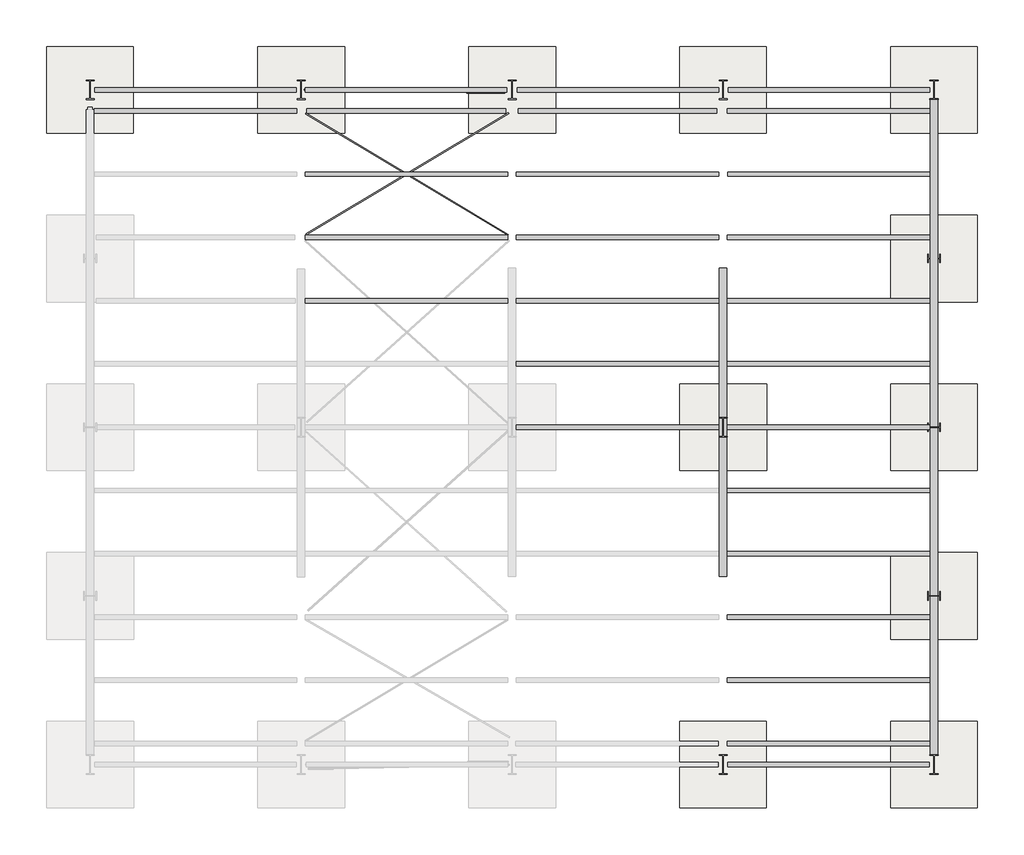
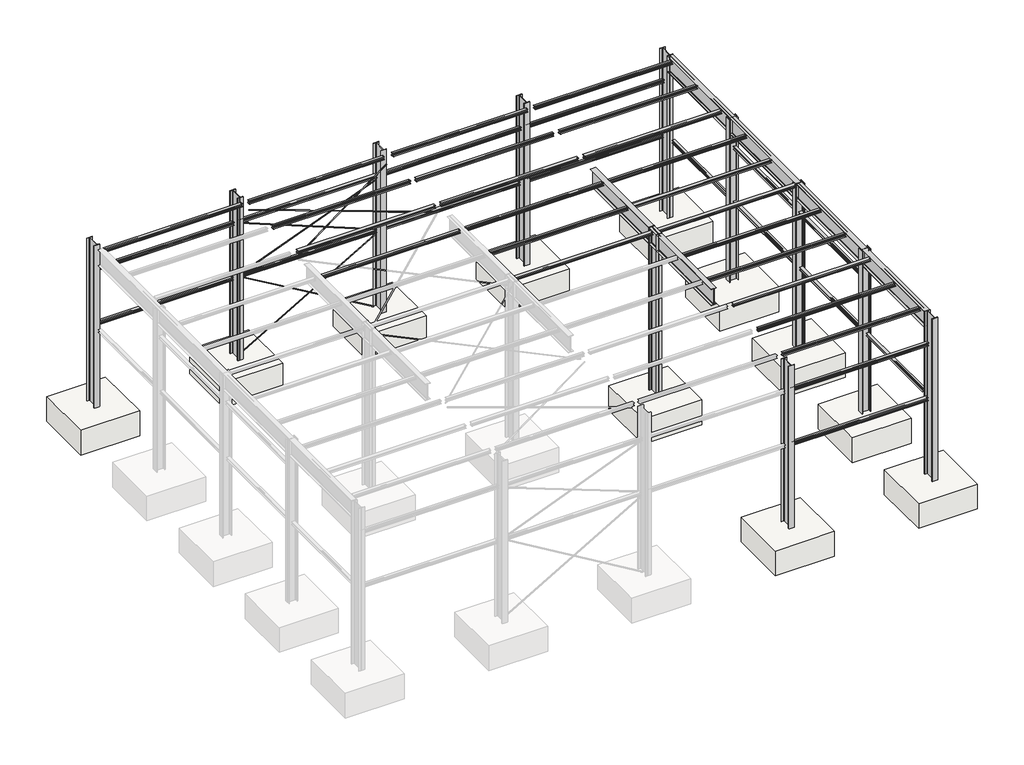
# Not in any storey, part 2 of 2: 46 beams, 11 columns, 11 slabs.
"""IFC4 building model written with IfcOpenShell, lengths in millimetres."""

from ifc_helpers import new_model, si_unit, origin, place, context, project, spatial, transform, mapped, element, save
from components import round_bars_rb_1_474f25ab, round_bars_rb_1_c614382c, round_bars_rb_1_e19388fe, round_bars_rb_1_949807f2, round_bars_rb_1_8f1d1a11, round_bars_rb_1_6b27a221, w_shapes_w24x55_664a4076, w_shapes_w24x55_62e77ac5, w_shapes_w4x13_fa7221a6, w_shapes_w4x13_89d5f31c, w_shapes_w4x13_afdda7a2, w_shapes_w4x13_af738b31, w_shapes_w4x13_2dc6f00b, w_shapes_w4x13_65f9b636, w_shapes_w4x13_9ad04f5a, w_shapes_w4x13_eaaf8195, w_shapes_w4x13_6f2b7de4, w_shapes_w4x13_63091bc0, w_shapes_w4x13_0eda1e25, w_shapes_w4x13_2bcaec1d, w_shapes_w4x13_54614953, w_shapes_w4x13_d9203223, w_shapes_column_w12x40_08ec2019, w_shapes_column_w18x65_76ea03f4, slab_95bb2fbc

model = new_model("IFC4")

# Units and contexts
model_context = context("Model", 3, world=origin())
ifc_project = project(units=[si_unit("LENGTHUNIT", "METRE", prefix="MILLI")], contexts=[model_context])

# Site, building
site = spatial("IfcSite", under=ifc_project)
building = spatial("IfcBuilding", under=site)

# Beams
placement = place(None, origin())
round_bars_rb_1_shape = round_bars_rb_1_474f25ab(model_context)
element("IfcBeam", 1, ObjectType="Round Bars : RB 1", at=placement, inside=building, context=model_context, shape_type="MappedRepresentation", body=[
    mapped(round_bars_rb_1_shape, transform((10934.1915998, 15661.6667026, 5700.0), x_axis=(0.8572793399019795, -0.5148515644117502, 0.0), y_axis=(0.5148515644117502, 0.8572793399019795, 0.0), z_axis=(0.0, 0.0, 1.0))),
])
round_bars_rb_1_2_shape = round_bars_rb_1_c614382c(model_context)
element("IfcBeam", 2, ObjectType="Round Bars : RB 1", at=placement, inside=building, context=model_context, shape_type="MappedRepresentation", body=[
    mapped(round_bars_rb_1_2_shape, transform((10950.4659621, 15674.8854418, 5700.0), x_axis=(-0.8574929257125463, -0.5144957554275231, 0.0), y_axis=(0.5144957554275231, -0.8574929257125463, 0.0), z_axis=(0.0, 0.0, 1.0))),
])
round_bars_rb_1_3_shape = round_bars_rb_1_e19388fe(model_context)
element("IfcBeam", 3, ObjectType="Round Bars : RB 1", at=placement, inside=building, context=model_context, shape_type="MappedRepresentation", body=[
    mapped(round_bars_rb_1_3_shape, transform((10907.3586964, 17662.6892441, 3941.7383396), x_axis=(-0.9288234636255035, 0.0, 0.37052256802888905), y_axis=(0.0, -1.0, 0.0), z_axis=(0.3705225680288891, 0.0, 0.9288234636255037))),
])
round_bars_rb_1_4_shape = round_bars_rb_1_949807f2(model_context)
element("IfcBeam", 4, ObjectType="Round Bars : RB 1", at=placement, inside=building, context=model_context, shape_type="MappedRepresentation", body=[
    mapped(round_bars_rb_1_4_shape, transform((10979.5770982, 17662.6892441, 1472.3595423), x_axis=(0.8639508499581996, 0.0, 0.5035761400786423), y_axis=(0.0, 0.9999999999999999, 0.0), z_axis=(-0.5035761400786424, 0.0, 0.8639508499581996))),
])
round_bars_rb_1_5_shape = round_bars_rb_1_8f1d1a11(model_context)
element("IfcBeam", 5, ObjectType="Round Bars : RB 1", at=placement, inside=building, context=model_context, shape_type="MappedRepresentation", body=[
    mapped(round_bars_rb_1_5_shape, transform((10950.0327177, 17666.6381757, 1490.2290313), x_axis=(-0.8625784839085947, 0.0, 0.5059232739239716), y_axis=(0.0, -1.0, 0.0), z_axis=(0.5059232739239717, 0.0, 0.8625784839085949))),
])
round_bars_rb_1_6_shape = round_bars_rb_1_6b27a221(model_context)
element("IfcBeam", 6, ObjectType="Round Bars : RB 1", at=placement, inside=building, context=model_context, shape_type="MappedRepresentation", body=[
    mapped(round_bars_rb_1_6_shape, transform((10963.5951339, 17628.6583681, 3945.7573265), x_axis=(0.928837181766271, -0.013322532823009, 0.37024856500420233), y_axis=(0.014341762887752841, 0.9998971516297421, 0.0), z_axis=(-0.3702104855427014, 0.005310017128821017, 0.9289327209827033))),
])
w_shapes_w24x55_shape = w_shapes_w24x55_664a4076(model_context)
element("IfcBeam", 7, ObjectType="W Shapes : W24X55", at=placement, inside=building, context=model_context, shape_type="MappedRepresentation", body=[
    mapped(w_shapes_w24x55_shape, transform((18430.1389659, 9775.9892441, 5700.28), x_axis=(0.0, -1.0, 0.0), y_axis=(1.0, 0.0, 0.0), z_axis=(0.0, 0.0, 1.0))),
])
w_shapes_w24x55_2_shape = w_shapes_w24x55_62e77ac5(model_context)
element("IfcBeam", 8, ObjectType="W Shapes : W24X55", at=placement, inside=building, context=model_context, shape_type="MappedRepresentation", body=[
    mapped(w_shapes_w24x55_2_shape, transform((23430.1389659, 9662.6892441, 5700.28), x_axis=(0.0, -1.0, 0.0), y_axis=(1.0, 0.0, 0.0), z_axis=(0.0, 0.0, 1.0))),
])
w_shapes_w4x13_shape = w_shapes_w4x13_fa7221a6(model_context)
element("IfcBeam", 9, ObjectType="W Shapes : W4X13", at=placement, inside=building, context=model_context, shape_type="MappedRepresentation", body=[
    mapped(w_shapes_w4x13_shape, transform((20930.7372773, 1662.6892441, 4956.568), x_axis=(1.0, 0.0, 0.0), y_axis=(0.0, 1.0, 0.0), z_axis=(0.0, 0.0, 1.0))),
])
element("IfcBeam", 10, ObjectType="W Shapes : W4X13", at=placement, inside=building, context=model_context, shape_type="MappedRepresentation", body=[
    mapped(w_shapes_w4x13_shape, transform((20939.1584596, 17662.6892441, 4956.568), x_axis=(-1.0, 0.0, 0.0), y_axis=(0.0, -1.0, 0.0), z_axis=(0.0, 0.0, 1.0))),
])
element("IfcBeam", 11, ObjectType="W Shapes : W4X13", at=placement, inside=building, context=model_context, shape_type="MappedRepresentation", body=[
    mapped(w_shapes_w4x13_shape, transform((15942.4643024, 17662.6892441, 4956.568), x_axis=(-1.0, 0.0, 0.0), y_axis=(0.0, -1.0, 0.0), z_axis=(0.0, 0.0, 1.0))),
])
element("IfcBeam", 12, ObjectType="W Shapes : W4X13", at=placement, inside=building, context=model_context, shape_type="MappedRepresentation", body=[
    mapped(w_shapes_w4x13_shape, transform((10917.0085823, 17662.6892441, 4956.568), x_axis=(-1.0, 0.0, 0.0), y_axis=(0.0, -1.0, 0.0), z_axis=(0.0, 0.0, 1.0))),
])
element("IfcBeam", 13, ObjectType="W Shapes : W4X13", at=placement, inside=building, context=model_context, shape_type="MappedRepresentation", body=[
    mapped(w_shapes_w4x13_shape, transform((5928.7228315, 17662.6892441, 4956.568), x_axis=(-1.0, 0.0, 0.0), y_axis=(0.0, -1.0, 0.0), z_axis=(0.0, 0.0, 1.0))),
])
w_shapes_w4x13_2_shape = w_shapes_w4x13_89d5f31c(model_context)
element("IfcBeam", 14, ObjectType="W Shapes : W4X13", at=placement, inside=building, context=model_context, shape_type="MappedRepresentation", body=[
    mapped(w_shapes_w4x13_2_shape, transform((23430.1389659, 7676.7433244, 4956.568), x_axis=(0.0, 1.0, 0.0), y_axis=(-1.0, 0.0, 0.0), z_axis=(0.0, 0.0, 1.0))),
])
element("IfcBeam", 15, ObjectType="W Shapes : W4X13", at=placement, inside=building, context=model_context, shape_type="MappedRepresentation", body=[
    mapped(w_shapes_w4x13_2_shape, transform((23430.1389659, 11648.5807671, 4956.568), x_axis=(0.0, 1.0, 0.0), y_axis=(-1.0, 0.0, 0.0), z_axis=(0.0, 0.0, 1.0))),
])
w_shapes_w4x13_3_shape = w_shapes_w4x13_afdda7a2(model_context)
element("IfcBeam", 16, ObjectType="W Shapes : W4X13", at=placement, inside=building, context=model_context, shape_type="MappedRepresentation", body=[
    mapped(w_shapes_w4x13_3_shape, transform((20928.2389659, 2162.6892441, 5947.168), x_axis=(1.0, 0.0, 0.0), y_axis=(0.0, 1.0, 0.0), z_axis=(0.0, 0.0, 1.0))),
])
element("IfcBeam", 17, ObjectType="W Shapes : W4X13", at=placement, inside=building, context=model_context, shape_type="MappedRepresentation", body=[
    mapped(w_shapes_w4x13_3_shape, transform((20925.6889659, 3662.6892441, 5947.168), x_axis=(1.0, 0.0, 0.0), y_axis=(0.0, 1.0, 0.0), z_axis=(0.0, 0.0, 1.0))),
])
element("IfcBeam", 18, ObjectType="W Shapes : W4X13", at=placement, inside=building, context=model_context, shape_type="MappedRepresentation", body=[
    mapped(w_shapes_w4x13_3_shape, transform((20928.1119659, 5162.6892441, 5947.168), x_axis=(1.0, 0.0, 0.0), y_axis=(0.0, 1.0, 0.0), z_axis=(0.0, 0.0, 1.0))),
])
element("IfcBeam", 19, ObjectType="W Shapes : W4X13", at=placement, inside=building, context=model_context, shape_type="MappedRepresentation", body=[
    mapped(w_shapes_w4x13_3_shape, transform((20928.1119659, 6662.6892441, 5947.168), x_axis=(1.0, 0.0, 0.0), y_axis=(0.0, 1.0, 0.0), z_axis=(0.0, 0.0, 1.0))),
])
element("IfcBeam", 20, ObjectType="W Shapes : W4X13", at=placement, inside=building, context=model_context, shape_type="MappedRepresentation", body=[
    mapped(w_shapes_w4x13_3_shape, transform((20928.1119659, 8162.6892441, 5947.168), x_axis=(1.0, 0.0, 0.0), y_axis=(0.0, 1.0, 0.0), z_axis=(0.0, 0.0, 1.0))),
])
element("IfcBeam", 21, ObjectType="W Shapes : W4X13", at=placement, inside=building, context=model_context, shape_type="MappedRepresentation", body=[
    mapped(w_shapes_w4x13_3_shape, transform((15925.6889659, 9662.6892441, 5947.168), x_axis=(1.0, 0.0, 0.0), y_axis=(0.0, 1.0, 0.0), z_axis=(0.0, 0.0, 1.0))),
])
element("IfcBeam", 22, ObjectType="W Shapes : W4X13", at=placement, inside=building, context=model_context, shape_type="MappedRepresentation", body=[
    mapped(w_shapes_w4x13_3_shape, transform((20931.2869659, 9662.6892441, 5947.168), x_axis=(1.0, 0.0, 0.0), y_axis=(0.0, 1.0, 0.0), z_axis=(0.0, 0.0, 1.0))),
])
w_shapes_w4x13_4_shape = w_shapes_w4x13_af738b31(model_context)
element("IfcBeam", 23, ObjectType="W Shapes : W4X13", at=placement, inside=building, context=model_context, shape_type="MappedRepresentation", body=[
    mapped(w_shapes_w4x13_4_shape, transform((5925.6889659, 17162.6892441, 5947.168), x_axis=(1.0, 0.0, 0.0), y_axis=(0.0, 1.0, 0.0), z_axis=(0.0, 0.0, 1.0))),
])
element("IfcBeam", 24, ObjectType="W Shapes : W4X13", at=placement, inside=building, context=model_context, shape_type="MappedRepresentation", body=[
    mapped(w_shapes_w4x13_4_shape, transform((20932.0389659, 17162.6892441, 5947.168), x_axis=(1.0, 0.0, 0.0), y_axis=(0.0, 1.0, 0.0), z_axis=(0.0, 0.0, 1.0))),
])
element("IfcBeam", 25, ObjectType="W Shapes : W4X13", at=placement, inside=building, context=model_context, shape_type="MappedRepresentation", body=[
    mapped(w_shapes_w4x13_4_shape, transform((10928.2389659, 15662.6892441, 5947.168), x_axis=(1.0, 0.0, 0.0), y_axis=(0.0, 1.0, 0.0), z_axis=(0.0, 0.0, 1.0))),
])
element("IfcBeam", 26, ObjectType="W Shapes : W4X13", at=placement, inside=building, context=model_context, shape_type="MappedRepresentation", body=[
    mapped(w_shapes_w4x13_4_shape, transform((15925.6889659, 15662.6892441, 5947.168), x_axis=(1.0, 0.0, 0.0), y_axis=(0.0, 1.0, 0.0), z_axis=(0.0, 0.0, 1.0))),
])
element("IfcBeam", 27, ObjectType="W Shapes : W4X13", at=placement, inside=building, context=model_context, shape_type="MappedRepresentation", body=[
    mapped(w_shapes_w4x13_4_shape, transform((20938.3889659, 15662.6892441, 5947.168), x_axis=(1.0, 0.0, 0.0), y_axis=(0.0, 1.0, 0.0), z_axis=(0.0, 0.0, 1.0))),
])
element("IfcBeam", 28, ObjectType="W Shapes : W4X13", at=placement, inside=building, context=model_context, shape_type="MappedRepresentation", body=[
    mapped(w_shapes_w4x13_4_shape, transform((10928.2389659, 14162.6892441, 5947.168), x_axis=(1.0, 0.0, 0.0), y_axis=(0.0, 1.0, 0.0), z_axis=(0.0, 0.0, 1.0))),
])
element("IfcBeam", 29, ObjectType="W Shapes : W4X13", at=placement, inside=building, context=model_context, shape_type="MappedRepresentation", body=[
    mapped(w_shapes_w4x13_4_shape, transform((15925.6889659, 14162.6892441, 5947.168), x_axis=(1.0, 0.0, 0.0), y_axis=(0.0, 1.0, 0.0), z_axis=(0.0, 0.0, 1.0))),
])
element("IfcBeam", 30, ObjectType="W Shapes : W4X13", at=placement, inside=building, context=model_context, shape_type="MappedRepresentation", body=[
    mapped(w_shapes_w4x13_4_shape, transform((20925.6889659, 14162.6892441, 5947.168), x_axis=(1.0, 0.0, 0.0), y_axis=(0.0, 1.0, 0.0), z_axis=(0.0, 0.0, 1.0))),
])
element("IfcBeam", 31, ObjectType="W Shapes : W4X13", at=placement, inside=building, context=model_context, shape_type="MappedRepresentation", body=[
    mapped(w_shapes_w4x13_4_shape, transform((10928.2389659, 12662.6892441, 5947.168), x_axis=(1.0, 0.0, 0.0), y_axis=(0.0, 1.0, 0.0), z_axis=(0.0, 0.0, 1.0))),
])
element("IfcBeam", 32, ObjectType="W Shapes : W4X13", at=placement, inside=building, context=model_context, shape_type="MappedRepresentation", body=[
    mapped(w_shapes_w4x13_4_shape, transform((15925.6889659, 12662.6892441, 5947.168), x_axis=(1.0, 0.0, 0.0), y_axis=(0.0, 1.0, 0.0), z_axis=(0.0, 0.0, 1.0))),
])
element("IfcBeam", 33, ObjectType="W Shapes : W4X13", at=placement, inside=building, context=model_context, shape_type="MappedRepresentation", body=[
    mapped(w_shapes_w4x13_4_shape, transform((20925.6889659, 12662.6892441, 5947.168), x_axis=(1.0, 0.0, 0.0), y_axis=(0.0, 1.0, 0.0), z_axis=(0.0, 0.0, 1.0))),
])
element("IfcBeam", 34, ObjectType="W Shapes : W4X13", at=placement, inside=building, context=model_context, shape_type="MappedRepresentation", body=[
    mapped(w_shapes_w4x13_4_shape, transform((15925.6889659, 11162.6892441, 5947.168), x_axis=(1.0, 0.0, 0.0), y_axis=(0.0, 1.0, 0.0), z_axis=(0.0, 0.0, 1.0))),
])
element("IfcBeam", 35, ObjectType="W Shapes : W4X13", at=placement, inside=building, context=model_context, shape_type="MappedRepresentation", body=[
    mapped(w_shapes_w4x13_4_shape, transform((20925.6889659, 11162.6892441, 5947.168), x_axis=(1.0, 0.0, 0.0), y_axis=(0.0, 1.0, 0.0), z_axis=(0.0, 0.0, 1.0))),
])
w_shapes_w4x13_5_shape = w_shapes_w4x13_2dc6f00b(model_context)
element("IfcBeam", 36, ObjectType="W Shapes : W4X13", at=placement, inside=building, context=model_context, shape_type="MappedRepresentation", body=[
    mapped(w_shapes_w4x13_5_shape, transform((10919.3389659, 17162.6892441, 5947.168), x_axis=(1.0, 0.0, 0.0), y_axis=(0.0, 1.0, 0.0), z_axis=(0.0, 0.0, 1.0))),
])
w_shapes_w4x13_6_shape = w_shapes_w4x13_65f9b636(model_context)
element("IfcBeam", 37, ObjectType="W Shapes : W4X13", at=placement, inside=building, context=model_context, shape_type="MappedRepresentation", body=[
    mapped(w_shapes_w4x13_6_shape, transform((15928.2389659, 17162.6892441, 5947.168), x_axis=(1.0, 0.0, 0.0), y_axis=(0.0, 1.0, 0.0), z_axis=(0.0, 0.0, 1.0))),
])
w_shapes_w4x13_7_shape = w_shapes_w4x13_9ad04f5a(model_context)
element("IfcBeam", 38, ObjectType="W Shapes : W4X13", at=placement, inside=building, context=model_context, shape_type="MappedRepresentation", body=[
    mapped(w_shapes_w4x13_7_shape, transform((23430.1389659, 7656.5892441, 2947.168), x_axis=(0.0, 1.0, 0.0), y_axis=(-1.0, 0.0, 0.0), z_axis=(0.0, 0.0, 1.0))),
])
w_shapes_w4x13_8_shape = w_shapes_w4x13_eaaf8195(model_context)
element("IfcBeam", 39, ObjectType="W Shapes : W4X13", at=placement, inside=building, context=model_context, shape_type="MappedRepresentation", body=[
    mapped(w_shapes_w4x13_8_shape, transform((20944.7389659, 1662.6892441, 2947.168), x_axis=(1.0, 0.0, 0.0), y_axis=(0.0, 1.0, 0.0), z_axis=(0.0, 0.0, 1.0))),
])
element("IfcBeam", 40, ObjectType="W Shapes : W4X13", at=placement, inside=building, context=model_context, shape_type="MappedRepresentation", body=[
    mapped(w_shapes_w4x13_8_shape, transform((20940.9389659, 17662.6892441, 2947.168), x_axis=(-1.0, 0.0, 0.0), y_axis=(0.0, -1.0, 0.0), z_axis=(0.0, 0.0, 1.0))),
])
w_shapes_w4x13_9_shape = w_shapes_w4x13_6f2b7de4(model_context)
element("IfcBeam", 41, ObjectType="W Shapes : W4X13", at=placement, inside=building, context=model_context, shape_type="MappedRepresentation", body=[
    mapped(w_shapes_w4x13_9_shape, transform((5937.7639659, 17662.6892441, 2947.168), x_axis=(-1.0, 0.0, 0.0), y_axis=(0.0, -1.0, 0.0), z_axis=(0.0, 0.0, 1.0))),
])
w_shapes_w4x13_10_shape = w_shapes_w4x13_63091bc0(model_context)
element("IfcBeam", 42, ObjectType="W Shapes : W4X13", at=placement, inside=building, context=model_context, shape_type="MappedRepresentation", body=[
    mapped(w_shapes_w4x13_10_shape, transform((10937.7639659, 17662.6892441, 2947.168), x_axis=(-1.0, 0.0, 0.0), y_axis=(0.0, -1.0, 0.0), z_axis=(0.0, 0.0, 1.0))),
])
w_shapes_w4x13_11_shape = w_shapes_w4x13_0eda1e25(model_context)
element("IfcBeam", 43, ObjectType="W Shapes : W4X13", at=placement, inside=building, context=model_context, shape_type="MappedRepresentation", body=[
    mapped(w_shapes_w4x13_11_shape, transform((15934.5889659, 17662.6892441, 2947.168), x_axis=(-1.0, 0.0, 0.0), y_axis=(0.0, -1.0, 0.0), z_axis=(0.0, 0.0, 1.0))),
])
w_shapes_w4x13_12_shape = w_shapes_w4x13_2bcaec1d(model_context)
element("IfcBeam", 44, ObjectType="W Shapes : W4X13", at=placement, inside=building, context=model_context, shape_type="MappedRepresentation", body=[
    mapped(w_shapes_w4x13_12_shape, transform((23430.1389659, 15593.0892441, 2947.168), x_axis=(0.0, 1.0, 0.0), y_axis=(-1.0, 0.0, 0.0), z_axis=(0.0, 0.0, 1.0))),
])
w_shapes_w4x13_13_shape = w_shapes_w4x13_54614953(model_context)
element("IfcBeam", 45, ObjectType="W Shapes : W4X13", at=placement, inside=building, context=model_context, shape_type="MappedRepresentation", body=[
    mapped(w_shapes_w4x13_13_shape, transform((23430.1389659, 11656.5892441, 2947.168), x_axis=(0.0, 1.0, 0.0), y_axis=(-1.0, 0.0, 0.0), z_axis=(0.0, 0.0, 1.0))),
])
w_shapes_w4x13_14_shape = w_shapes_w4x13_d9203223(model_context)
element("IfcBeam", 46, ObjectType="W Shapes : W4X13", at=placement, inside=building, context=model_context, shape_type="MappedRepresentation", body=[
    mapped(w_shapes_w4x13_14_shape, transform((23430.1389659, 3732.2892441, 2947.168), x_axis=(0.0, 1.0, 0.0), y_axis=(-1.0, 0.0, 0.0), z_axis=(0.0, 0.0, 1.0))),
])

# Columns
w_shapes_column_w12x40_shape = w_shapes_column_w12x40_08ec2019(model_context)
element("IfcColumn", 47, ObjectType="W Shapes-Column : W12X40", at=placement, inside=building, context=model_context, shape_type="MappedRepresentation", body=[
    mapped(w_shapes_column_w12x40_shape, transform((23430.1389659, 5662.6892441, 0.0), x_axis=(0.0, -1.0, 0.0), y_axis=(1.0, 0.0, 0.0), z_axis=(0.0, 0.0, 1.0))),
])
element("IfcColumn", 48, ObjectType="W Shapes-Column : W12X40", at=placement, inside=building, context=model_context, shape_type="MappedRepresentation", body=[
    mapped(w_shapes_column_w12x40_shape, transform((23430.1389659, 9662.6892441, 0.0), x_axis=(0.0, -1.0, 0.0), y_axis=(1.0, 0.0, 0.0), z_axis=(0.0, 0.0, 1.0))),
])
element("IfcColumn", 49, ObjectType="W Shapes-Column : W12X40", at=placement, inside=building, context=model_context, shape_type="MappedRepresentation", body=[
    mapped(w_shapes_column_w12x40_shape, transform((23430.1389659, 13662.6892441, 0.0), x_axis=(0.0, -1.0, 0.0), y_axis=(1.0, 0.0, 0.0), z_axis=(0.0, 0.0, 1.0))),
])
w_shapes_column_w18x65_shape = w_shapes_column_w18x65_76ea03f4(model_context)
element("IfcColumn", 50, ObjectType="W Shapes-Column : W18X65", at=placement, inside=building, context=model_context, shape_type="MappedRepresentation", body=[
    mapped(w_shapes_column_w18x65_shape, transform((18430.1389659, 1662.6892441, 0.0), x_axis=(1.0, 0.0, 0.0), y_axis=(0.0, 1.0, 0.0), z_axis=(0.0, 0.0, 1.0))),
])
element("IfcColumn", 51, ObjectType="W Shapes-Column : W18X65", at=placement, inside=building, context=model_context, shape_type="MappedRepresentation", body=[
    mapped(w_shapes_column_w18x65_shape, transform((23430.1389659, 1662.6892441, 0.0), x_axis=(1.0, 0.0, 0.0), y_axis=(0.0, 1.0, 0.0), z_axis=(0.0, 0.0, 1.0))),
])
element("IfcColumn", 52, ObjectType="W Shapes-Column : W18X65", at=placement, inside=building, context=model_context, shape_type="MappedRepresentation", body=[
    mapped(w_shapes_column_w18x65_shape, transform((3430.1389659, 17662.6892441, 0.0), x_axis=(1.0, 0.0, 0.0), y_axis=(0.0, 1.0, 0.0), z_axis=(0.0, 0.0, 1.0))),
])
element("IfcColumn", 53, ObjectType="W Shapes-Column : W18X65", at=placement, inside=building, context=model_context, shape_type="MappedRepresentation", body=[
    mapped(w_shapes_column_w18x65_shape, transform((8430.1389659, 17662.6892441, 0.0), x_axis=(1.0, 0.0, 0.0), y_axis=(0.0, 1.0, 0.0), z_axis=(0.0, 0.0, 1.0))),
])
element("IfcColumn", 54, ObjectType="W Shapes-Column : W18X65", at=placement, inside=building, context=model_context, shape_type="MappedRepresentation", body=[
    mapped(w_shapes_column_w18x65_shape, transform((13430.1389659, 17662.6892441, 0.0), x_axis=(1.0, 0.0, 0.0), y_axis=(0.0, 1.0, 0.0), z_axis=(0.0, 0.0, 1.0))),
])
element("IfcColumn", 55, ObjectType="W Shapes-Column : W18X65", at=placement, inside=building, context=model_context, shape_type="MappedRepresentation", body=[
    mapped(w_shapes_column_w18x65_shape, transform((18430.1389659, 17662.6892441, 0.0), x_axis=(1.0, 0.0, 0.0), y_axis=(0.0, 1.0, 0.0), z_axis=(0.0, 0.0, 1.0))),
])
element("IfcColumn", 56, ObjectType="W Shapes-Column : W18X65", at=placement, inside=building, context=model_context, shape_type="MappedRepresentation", body=[
    mapped(w_shapes_column_w18x65_shape, transform((23430.1389659, 17662.6892441, 0.0), x_axis=(1.0, 0.0, 0.0), y_axis=(0.0, 1.0, 0.0), z_axis=(0.0, 0.0, 1.0))),
])
element("IfcColumn", 57, ObjectType="W Shapes-Column : W18X65", at=placement, inside=building, context=model_context, shape_type="MappedRepresentation", body=[
    mapped(w_shapes_column_w18x65_shape, transform((18430.1389659, 9662.6892441, 0.0), x_axis=(1.0, 0.0, 0.0), y_axis=(0.0, 1.0, 0.0), z_axis=(0.0, 0.0, 1.0))),
])

# Slabs
slab_shape = slab_95bb2fbc(model_context)
element("IfcSlab", 58, ObjectType="Pile Cap-Rectangular : 81\" x 81\" x 36\"", at=placement, inside=building, context=model_context, shape_type="MappedRepresentation", body=[
    mapped(slab_shape, transform((3425.4389659, 17662.6892441, 0.0), x_axis=(1.0, 0.0, 0.0), y_axis=(0.0, 1.0, 0.0), z_axis=(0.0, 0.0, 1.0))),
])
element("IfcSlab", 59, ObjectType="Pile Cap-Rectangular : 81\" x 81\" x 36\"", at=placement, inside=building, context=model_context, shape_type="MappedRepresentation", body=[
    mapped(slab_shape, transform((8430.1389659, 17662.6892441, 0.0), x_axis=(1.0, 0.0, 0.0), y_axis=(0.0, 1.0, 0.0), z_axis=(0.0, 0.0, 1.0))),
])
element("IfcSlab", 60, ObjectType="Pile Cap-Rectangular : 81\" x 81\" x 36\"", at=placement, inside=building, context=model_context, shape_type="MappedRepresentation", body=[
    mapped(slab_shape, transform((13430.1389659, 17662.6892441, 0.0), x_axis=(1.0, 0.0, 0.0), y_axis=(0.0, 1.0, 0.0), z_axis=(0.0, 0.0, 1.0))),
])
element("IfcSlab", 61, ObjectType="Pile Cap-Rectangular : 81\" x 81\" x 36\"", at=placement, inside=building, context=model_context, shape_type="MappedRepresentation", body=[
    mapped(slab_shape, transform((18430.1389659, 17662.6892441, 0.0), x_axis=(1.0, 0.0, 0.0), y_axis=(0.0, 1.0, 0.0), z_axis=(0.0, 0.0, 1.0))),
])
element("IfcSlab", 62, ObjectType="Pile Cap-Rectangular : 81\" x 81\" x 36\"", at=placement, inside=building, context=model_context, shape_type="MappedRepresentation", body=[
    mapped(slab_shape, transform((23430.1389659, 17662.6892441, 0.0), x_axis=(1.0, 0.0, 0.0), y_axis=(0.0, 1.0, 0.0), z_axis=(0.0, 0.0, 1.0))),
])
element("IfcSlab", 63, ObjectType="Pile Cap-Rectangular : 81\" x 81\" x 36\"", at=placement, inside=building, context=model_context, shape_type="MappedRepresentation", body=[
    mapped(slab_shape, transform((23430.1389659, 1662.6892441, 0.0), x_axis=(1.0, 0.0, 0.0), y_axis=(0.0, 1.0, 0.0), z_axis=(0.0, 0.0, 1.0))),
])
element("IfcSlab", 64, ObjectType="Pile Cap-Rectangular : 81\" x 81\" x 36\"", at=placement, inside=building, context=model_context, shape_type="MappedRepresentation", body=[
    mapped(slab_shape, transform((18430.1389659, 1662.6892441, 0.0), x_axis=(1.0, 0.0, 0.0), y_axis=(0.0, 1.0, 0.0), z_axis=(0.0, 0.0, 1.0))),
])
element("IfcSlab", 65, ObjectType="Pile Cap-Rectangular : 81\" x 81\" x 36\"", at=placement, inside=building, context=model_context, shape_type="MappedRepresentation", body=[
    mapped(slab_shape, transform((23430.1389659, 13662.6892441, 0.0), x_axis=(1.0, 0.0, 0.0), y_axis=(0.0, 1.0, 0.0), z_axis=(0.0, 0.0, 1.0))),
])
element("IfcSlab", 66, ObjectType="Pile Cap-Rectangular : 81\" x 81\" x 36\"", at=placement, inside=building, context=model_context, shape_type="MappedRepresentation", body=[
    mapped(slab_shape, transform((23430.1389659, 9662.6892441, 0.0), x_axis=(1.0, 0.0, 0.0), y_axis=(0.0, 1.0, 0.0), z_axis=(0.0, 0.0, 1.0))),
])
element("IfcSlab", 67, ObjectType="Pile Cap-Rectangular : 81\" x 81\" x 36\"", at=placement, inside=building, context=model_context, shape_type="MappedRepresentation", body=[
    mapped(slab_shape, transform((23430.1389659, 5662.6892441, 0.0), x_axis=(1.0, 0.0, 0.0), y_axis=(0.0, 1.0, 0.0), z_axis=(0.0, 0.0, 1.0))),
])
element("IfcSlab", 68, ObjectType="Pile Cap-Rectangular : 81\" x 81\" x 36\"", at=placement, inside=building, context=model_context, shape_type="MappedRepresentation", body=[
    mapped(slab_shape, transform((18434.8389659, 9662.6892441, 0.0), x_axis=(1.0, 0.0, 0.0), y_axis=(0.0, 1.0, 0.0), z_axis=(0.0, 0.0, 1.0))),
])

save(model, "model.ifc")
